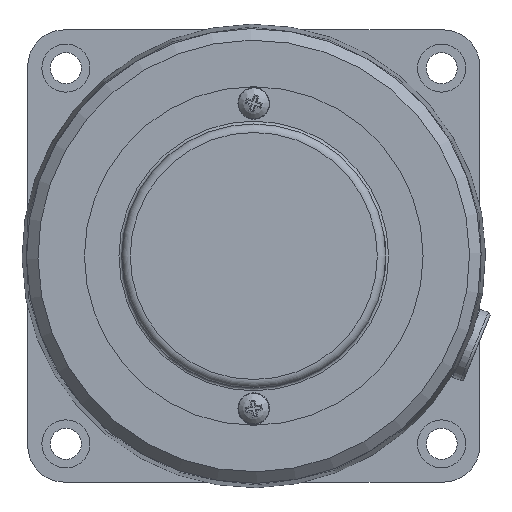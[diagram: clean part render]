
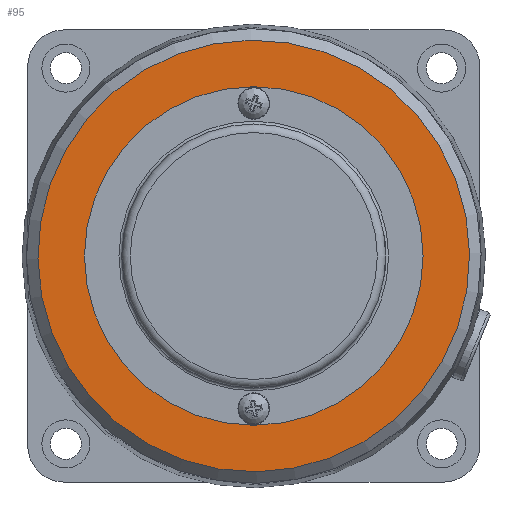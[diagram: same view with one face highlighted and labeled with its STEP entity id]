
A CAD part, left-side view. The second image highlights one B-rep face of the part: STEP entity #95.
In plain terms, the highlighted planar face has unit normal (-1, 0, 0).
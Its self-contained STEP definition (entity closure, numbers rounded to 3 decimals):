
#68=CARTESIAN_POINT('',(-38.5,0.,0.));
#69=DIRECTION('',(-1.0,0.0,0.0));
#70=DIRECTION('',(0.0,-0.012,-1.));
#71=AXIS2_PLACEMENT_3D('',#68,#69,#70);
#72=PLANE('',#71);
#73=CARTESIAN_POINT('',(-38.5,0.476,38.177));
#74=VERTEX_POINT('',#73);
#75=CARTESIAN_POINT('',(-38.5,0.,0.));
#76=DIRECTION('',(1.0,0.,0.));
#77=DIRECTION('',(0.,-0.012,-1.));
#78=AXIS2_PLACEMENT_3D('',#75,#76,#77);
#79=CIRCLE('',#78,38.18);
#80=EDGE_CURVE('',#74,#74,#79,.T.);
#81=ORIENTED_EDGE('',*,*,#80,.F.);
#82=EDGE_LOOP('',(#81));
#83=FACE_OUTER_BOUND('',#82,.T.);
#84=CARTESIAN_POINT('',(-38.5,0.,29.95));
#85=VERTEX_POINT('',#84);
#86=CARTESIAN_POINT('',(-38.5,0.,0.));
#87=DIRECTION('',(-1.0,0.0,0.0));
#88=DIRECTION('',(0.0,0.0,-1.0));
#89=AXIS2_PLACEMENT_3D('',#86,#87,#88);
#90=CIRCLE('',#89,29.95);
#91=EDGE_CURVE('',#85,#85,#90,.T.);
#92=ORIENTED_EDGE('',*,*,#91,.F.);
#93=EDGE_LOOP('',(#92));
#94=FACE_BOUND('',#93,.T.);
#95=ADVANCED_FACE('',(#83,#94),#72,.T.);
